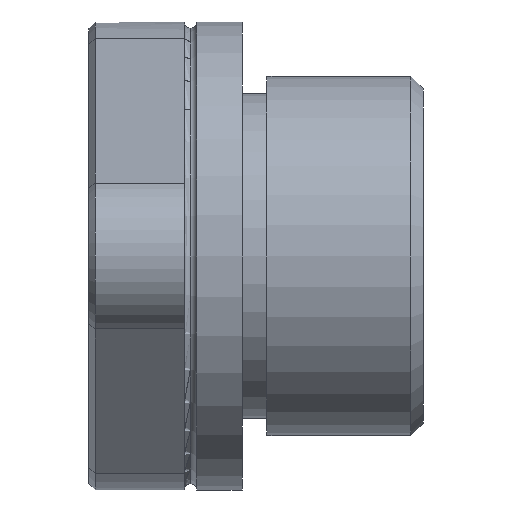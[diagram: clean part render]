
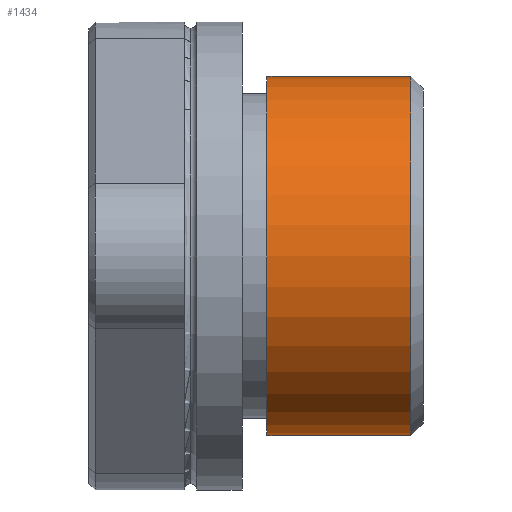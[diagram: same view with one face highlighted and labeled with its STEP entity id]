
A CAD part, left-side view. The second image highlights one B-rep face of the part: STEP entity #1434.
In plain terms, the highlighted cylindrical face has radius 11.024 mm (diameter 22.047 mm), a partial arc.
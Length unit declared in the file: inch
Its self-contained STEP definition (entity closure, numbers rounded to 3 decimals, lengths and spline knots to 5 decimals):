
#71 = EDGE_LOOP ( 'NONE', ( #185, #191, #192, #190 ) ) ;
#98 = VERTEX_POINT ( 'NONE', #249 ) ;
#100 = VERTEX_POINT ( 'NONE', #250 ) ;
#125 = VERTEX_POINT ( 'NONE', #283 ) ;
#139 = VERTEX_POINT ( 'NONE', #297 ) ;
#185 = ORIENTED_EDGE ( 'NONE', *, *, #1309, .F. ) ;
#190 = ORIENTED_EDGE ( 'NONE', *, *, #1450, .F. ) ;
#191 = ORIENTED_EDGE ( 'NONE', *, *, #1449, .T. ) ;
#192 = ORIENTED_EDGE ( 'NONE', *, *, #1311, .T. ) ;
#249 = CARTESIAN_POINT ( 'NONE',  ( 0., -0.547, 0.434 ) ) ;
#250 = CARTESIAN_POINT ( 'NONE',  ( 0., -0.547, -0.434 ) ) ;
#283 = CARTESIAN_POINT ( 'NONE',  ( 0., -0.2, -0.434 ) ) ;
#297 = CARTESIAN_POINT ( 'NONE',  ( 0., -0.2, 0.434 ) ) ;
#381 = LINE ( 'NONE', #382, #1052 ) ;
#382 = CARTESIAN_POINT ( 'NONE',  ( 0., 0., 0.434 ) ) ;
#383 = DIRECTION ( 'NONE',  ( 0., -1., 0. ) ) ;
#387 = LINE ( 'NONE', #388, #1053 ) ;
#388 = CARTESIAN_POINT ( 'NONE',  ( 0., 0., -0.434 ) ) ;
#389 = DIRECTION ( 'NONE',  ( 0., -1., 0. ) ) ;
#764 = CARTESIAN_POINT ( 'NONE',  ( 0., 0., 0. ) ) ;
#765 = DIRECTION ( 'NONE',  ( 0., -1., 0. ) ) ;
#766 = DIRECTION ( 'NONE',  ( 0., 0., -1. ) ) ;
#823 = CARTESIAN_POINT ( 'NONE',  ( 0., -0.2, 0. ) ) ;
#824 = DIRECTION ( 'NONE',  ( 0., -1., 0. ) ) ;
#825 = DIRECTION ( 'NONE',  ( 0., 0., -1. ) ) ;
#826 = CARTESIAN_POINT ( 'NONE',  ( 0., -0.547, 0. ) ) ;
#827 = DIRECTION ( 'NONE',  ( 0., -1., 0. ) ) ;
#828 = DIRECTION ( 'NONE',  ( 0., 0., -1. ) ) ;
#1052 = VECTOR ( 'NONE', #383, 39.37008 ) ;
#1053 = VECTOR ( 'NONE', #389, 39.37008 ) ;
#1229 = AXIS2_PLACEMENT_3D ( 'NONE', #764, #765, #766 ) ;
#1231 = FACE_OUTER_BOUND ( 'NONE', #71, .T. ) ;
#1234 = CYLINDRICAL_SURFACE ( 'NONE', #1229, 0.434 ) ;
#1271 = AXIS2_PLACEMENT_3D ( 'NONE', #823, #824, #825 ) ;
#1273 = AXIS2_PLACEMENT_3D ( 'NONE', #826, #827, #828 ) ;
#1309 = EDGE_CURVE ( 'NONE', #139, #98, #381, .T. ) ;
#1311 = EDGE_CURVE ( 'NONE', #125, #100, #387, .T. ) ;
#1434 = ADVANCED_FACE ( 'NONE', ( #1231 ), #1234, .T. ) ;
#1449 = EDGE_CURVE ( 'NONE', #139, #125, #1527, .T. ) ;
#1450 = EDGE_CURVE ( 'NONE', #98, #100, #1528, .T. ) ;
#1527 = CIRCLE ( 'NONE', #1271, 0.434 ) ;
#1528 = CIRCLE ( 'NONE', #1273, 0.434 ) ;
